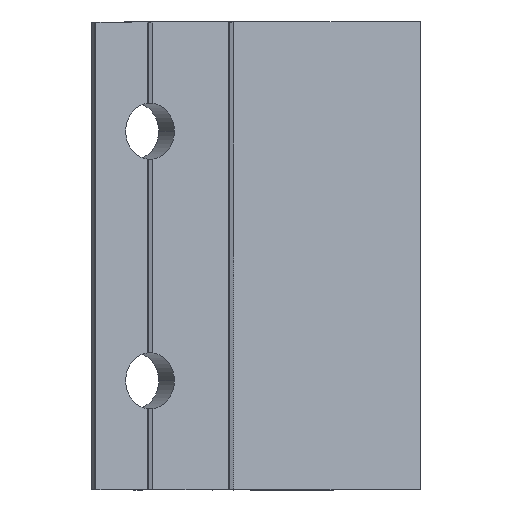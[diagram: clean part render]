
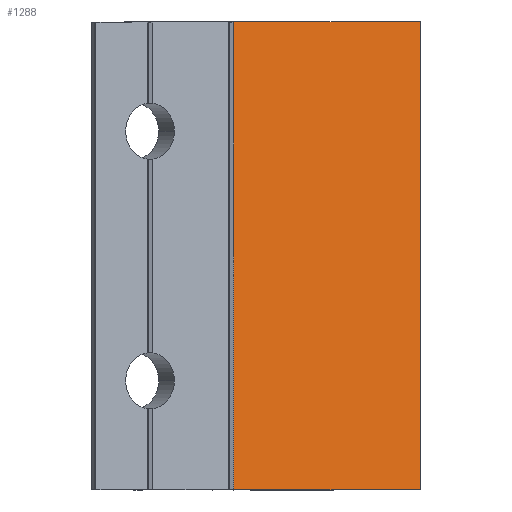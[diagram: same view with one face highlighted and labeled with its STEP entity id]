
A CAD part, left-side view. The second image highlights one B-rep face of the part: STEP entity #1288.
In plain terms, the highlighted planar face has unit normal (-0.866, -0.5, 0).
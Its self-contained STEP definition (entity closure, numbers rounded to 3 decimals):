
#10 = EDGE_LOOP ( 'NONE', ( #226, #60, #698, #2024 ) ) ;
#60 = ORIENTED_EDGE ( 'NONE', *, *, #1727, .F. ) ;
#65 = VECTOR ( 'NONE', #1087, 1000. ) ;
#97 = LINE ( 'NONE', #753, #65 ) ;
#146 = CARTESIAN_POINT ( 'NONE',  ( 0., 0., 0. ) ) ;
#152 = CARTESIAN_POINT ( 'NONE',  ( 0., 0., 75. ) ) ;
#221 = LINE ( 'NONE', #910, #1246 ) ;
#225 = DIRECTION ( 'NONE',  ( 0.5, -0.866, 0. ) ) ;
#226 = ORIENTED_EDGE ( 'NONE', *, *, #1089, .F. ) ;
#362 = CARTESIAN_POINT ( 'NONE',  ( -17.25, 29.878, 75. ) ) ;
#396 = CARTESIAN_POINT ( 'NONE',  ( 0., 0., 0. ) ) ;
#538 = VERTEX_POINT ( 'NONE', #152 ) ;
#539 = PLANE ( 'NONE',  #1992 ) ;
#698 = ORIENTED_EDGE ( 'NONE', *, *, #976, .T. ) ;
#721 = DIRECTION ( 'NONE',  ( -0.866, -0.5, 0. ) ) ;
#732 = LINE ( 'NONE', #362, #809 ) ;
#753 = CARTESIAN_POINT ( 'NONE',  ( -17.25, 29.878, 0. ) ) ;
#757 = VERTEX_POINT ( 'NONE', #1662 ) ;
#809 = VECTOR ( 'NONE', #1597, 1000. ) ;
#910 = CARTESIAN_POINT ( 'NONE',  ( 0., 0., 0. ) ) ;
#976 = EDGE_CURVE ( 'NONE', #757, #1564, #97, .T. ) ;
#1056 = VECTOR ( 'NONE', #225, 1000. ) ;
#1087 = DIRECTION ( 'NONE',  ( 0., 0., -1. ) ) ;
#1089 = EDGE_CURVE ( 'NONE', #538, #2031, #221, .T. ) ;
#1246 = VECTOR ( 'NONE', #1530, 1000. ) ;
#1288 = ADVANCED_FACE ( 'NONE', ( #2071 ), #539, .T. ) ;
#1336 = CARTESIAN_POINT ( 'NONE',  ( -17.25, 29.878, 0. ) ) ;
#1383 = LINE ( 'NONE', #1416, #1056 ) ;
#1408 = DIRECTION ( 'NONE',  ( 0.5, -0.866, 0. ) ) ;
#1416 = CARTESIAN_POINT ( 'NONE',  ( -17.25, 29.878, 0. ) ) ;
#1530 = DIRECTION ( 'NONE',  ( 0., 0., -1. ) ) ;
#1564 = VERTEX_POINT ( 'NONE', #1336 ) ;
#1597 = DIRECTION ( 'NONE',  ( 0.5, -0.866, 0. ) ) ;
#1652 = EDGE_CURVE ( 'NONE', #1564, #2031, #1383, .T. ) ;
#1662 = CARTESIAN_POINT ( 'NONE',  ( -17.25, 29.878, 75. ) ) ;
#1727 = EDGE_CURVE ( 'NONE', #757, #538, #732, .T. ) ;
#1992 = AXIS2_PLACEMENT_3D ( 'NONE', #396, #721, #1408 ) ;
#2024 = ORIENTED_EDGE ( 'NONE', *, *, #1652, .T. ) ;
#2031 = VERTEX_POINT ( 'NONE', #146 ) ;
#2071 = FACE_OUTER_BOUND ( 'NONE', #10, .T. ) ;
